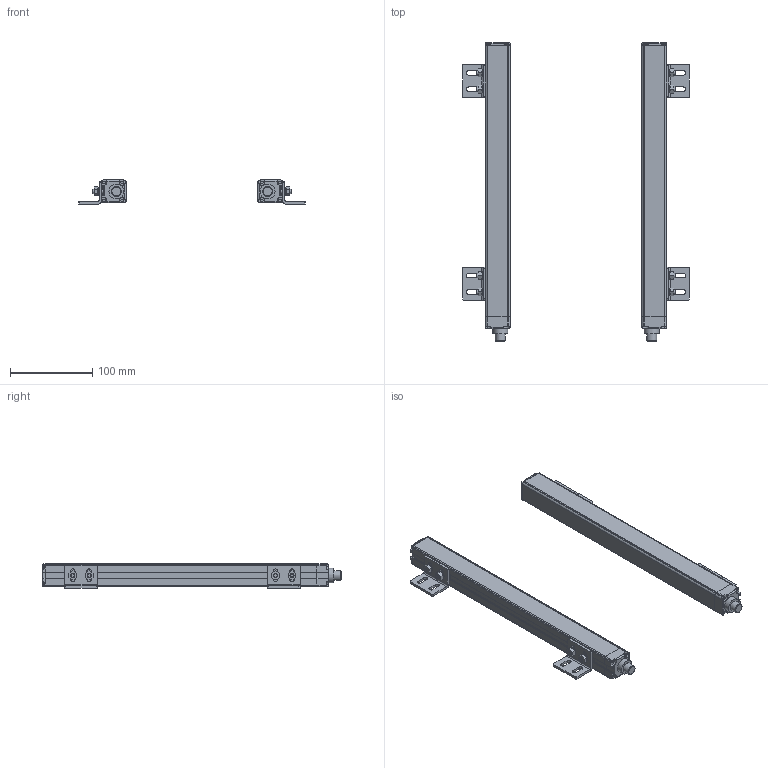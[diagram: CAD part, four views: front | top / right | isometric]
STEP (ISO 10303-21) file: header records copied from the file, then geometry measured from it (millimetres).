
FILE_DESCRIPTION( ( 'STEP AP203' ), '1' );
FILE_NAME( 'p:/temp/worker_34/2392_3608/app_73_02015061609445240261466192d056f_00_00_00_000/STEP/OY042S_2_03.stp', ' ', ( ' ' ), ( ' ' ), 'PSStep 15.0.47', 'PARTsolutions', ' ' );
FILE_SCHEMA( ( 'CONFIG_CONTROL_DESIGN' ) );
Length unit declared in the file: millimetre
Products named in the file (3): OY042S; _OY032S_part1; _OY031S_part2
Assembly tree (6 placements, depth 2):
  OY042S
    _OY032S_part1  x2
    _OY031S_part2  x4
Bounding box: 276 x 363 x 29.34 mm (x, y, z)
Volume: 585758.5 mm3; surface area: 118265.9 mm2
Topology: 6 solids, 6 shells, 786 faces, 2112 edges, 1394 vertices
Faces by surface type: plane 444, cylinder 324, cone 10, torus 8
Full cylindrical faces by diameter (mm): 2.5 x8, 3 x8, 5 x32, 8.9 x8, 12 x2, 18 x2
Entity records: 10306 total; most frequent: CARTESIAN_POINT 1834, DIRECTION 1788, ORIENTED_EDGE 1690, EDGE_CURVE 845, AXIS2_PLACEMENT_3D 619, VERTEX_POINT 577, LINE 550, VECTOR 550
